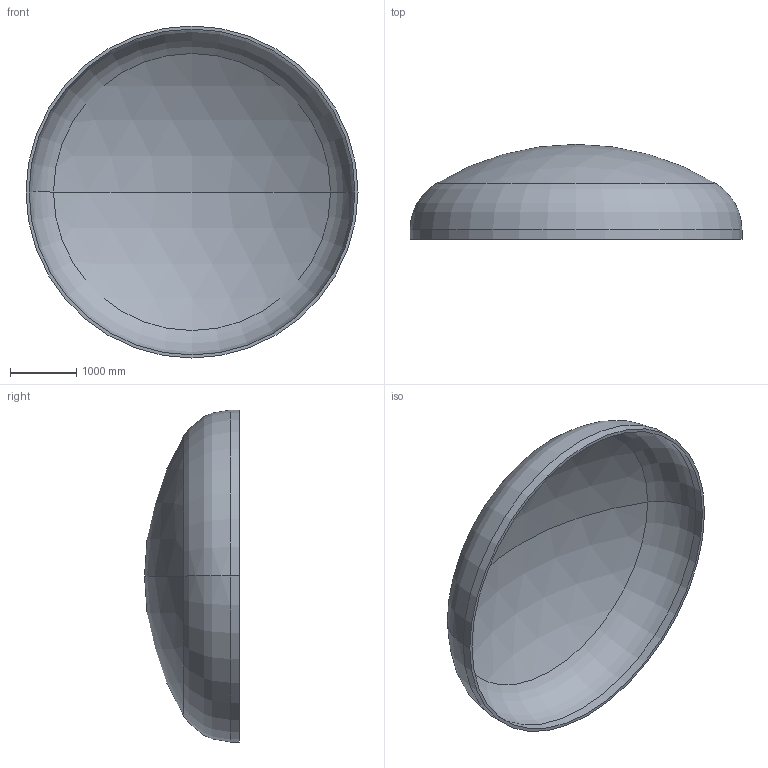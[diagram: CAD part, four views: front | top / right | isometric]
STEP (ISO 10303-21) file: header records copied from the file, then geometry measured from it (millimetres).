
FILE_DESCRIPTION (( 'STEP AP203' ), '1' );
FILE_NAME ('DIN 28013 Korbbogenform_-_Boden DIN 28013 - 5000 x 140 - I - s=46.step', '2016-07-02T00:32:21', ( '' ), ( '' ), 'SwSTEP 2.0', 'SolidWorks 2013', '' );
FILE_SCHEMA (( 'CONFIG_CONTROL_DESIGN' ));
Length unit declared in the file: millimetre
Products named in the file (1): DIN 28013 Korbbogenform_-_Boden DIN 28013 - 5000 x 140 - I - s=46
Bounding box: 5000 x 1429.73 x 5000 mm (x, y, z)
Volume: 1336033125.4 mm3; surface area: 58808725.5 mm2
Topology: 1 solids, 1 shells, 13 faces, 24 edges, 14 vertices
Faces by surface type: torus 4, cylinder 4, sphere 4, plane 1
Entity records: 407 total; most frequent: DIRECTION 72, CARTESIAN_POINT 52, ORIENTED_EDGE 48, AXIS2_PLACEMENT_3D 34, EDGE_CURVE 24, CIRCLE 20, EDGE_LOOP 14, VERTEX_POINT 14
